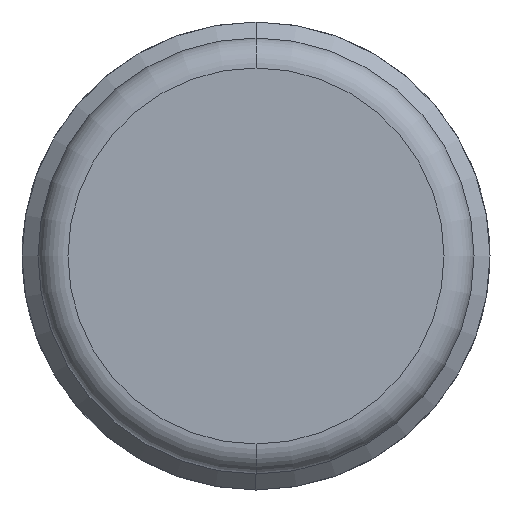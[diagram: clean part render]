
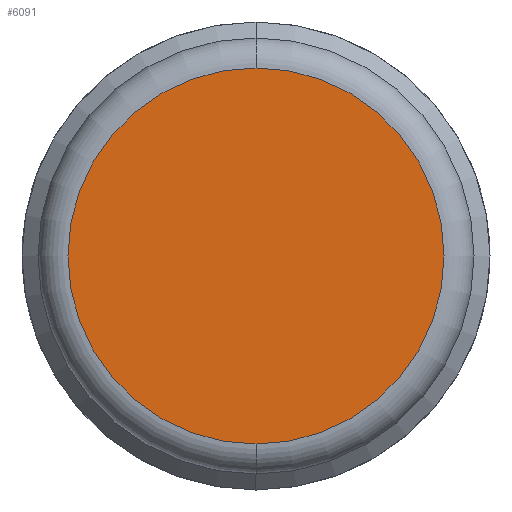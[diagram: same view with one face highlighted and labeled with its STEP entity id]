
A CAD part, left-side view. The second image highlights one B-rep face of the part: STEP entity #6091.
In plain terms, the highlighted planar face has unit normal (-1, 0, 0).
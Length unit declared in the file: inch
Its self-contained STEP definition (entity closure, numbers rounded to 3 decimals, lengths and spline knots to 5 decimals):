
#1439 = DIRECTION ( 'NONE',  ( 0., 0., -1. ) ) ;
#1440 = DIRECTION ( 'NONE',  ( -1., 0., 0. ) ) ;
#1441 = CARTESIAN_POINT ( 'NONE',  ( -1.9685, 0., 0. ) ) ;
#1442 = AXIS2_PLACEMENT_3D ( 'NONE', #1441, #1440, #1439 ) ;
#1443 = CIRCLE ( 'NONE', #1442, 0.188 ) ;
#1445 = DIRECTION ( 'NONE',  ( 0., 0., -1. ) ) ;
#1446 = DIRECTION ( 'NONE',  ( -1., 0., 0. ) ) ;
#1447 = CARTESIAN_POINT ( 'NONE',  ( -1.9685, 0., 0. ) ) ;
#1448 = AXIS2_PLACEMENT_3D ( 'NONE', #1447, #1446, #1445 ) ;
#1449 = PLANE ( 'NONE',  #1448 ) ;
#1531 = FACE_OUTER_BOUND ( 'NONE', #6092, .T. ) ;
#1532 = CARTESIAN_POINT ( 'NONE',  ( -1.9685, 0., -0.188 ) ) ;
#1625 = DIRECTION ( 'NONE',  ( 0., 0., -1. ) ) ;
#1626 = DIRECTION ( 'NONE',  ( -1., 0., 0. ) ) ;
#1627 = CARTESIAN_POINT ( 'NONE',  ( -1.9685, 0., 0. ) ) ;
#1628 = AXIS2_PLACEMENT_3D ( 'NONE', #1627, #1626, #1625 ) ;
#1629 = CIRCLE ( 'NONE', #1628, 0.188 ) ;
#1631 = CARTESIAN_POINT ( 'NONE',  ( -1.9685, 0., 0.188 ) ) ;
#6088 = VERTEX_POINT ( 'NONE', #1532 ) ;
#6091 = ADVANCED_FACE ( 'NONE', ( #1531 ), #1449, .T. ) ;
#6092 = EDGE_LOOP ( 'NONE', ( #6093, #6094 ) ) ;
#6093 = ORIENTED_EDGE ( 'NONE', *, *, #6119, .T. ) ;
#6094 = ORIENTED_EDGE ( 'NONE', *, *, #6095, .T. ) ;
#6095 = EDGE_CURVE ( 'NONE', #6117, #6088, #1443, .T. ) ;
#6117 = VERTEX_POINT ( 'NONE', #1631 ) ;
#6119 = EDGE_CURVE ( 'NONE', #6088, #6117, #1629, .T. ) ;
